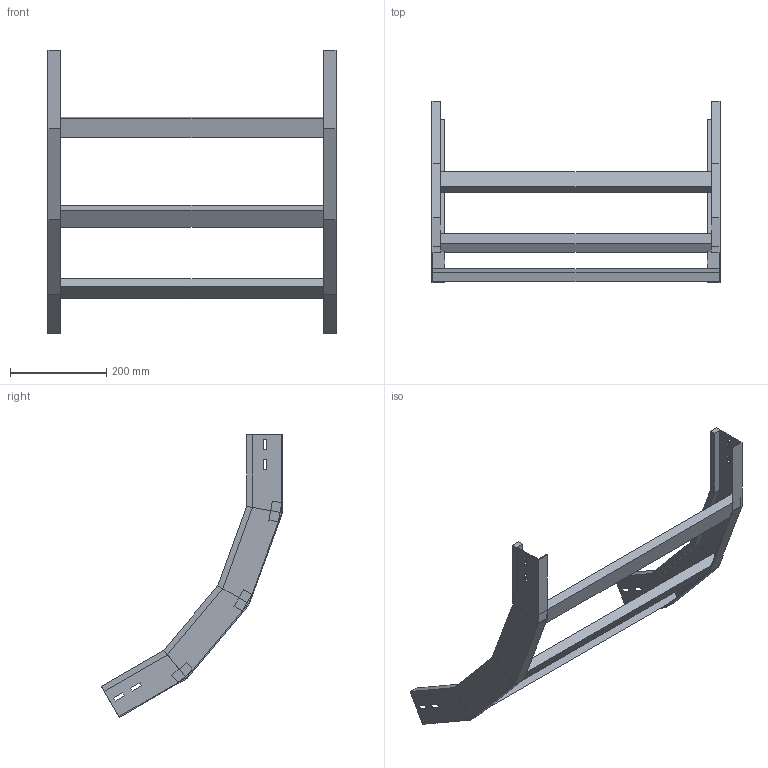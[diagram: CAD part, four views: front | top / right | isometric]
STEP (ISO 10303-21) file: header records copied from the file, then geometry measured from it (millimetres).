
FILE_DESCRIPTION (( 'STEP AP214' ), '1' );
FILE_NAME ('A2X40B5C600XX.step', '2025-03-20T10:17:26', ( '' ), ( '' ), 'SwSTEP 2.0', 'SolidWorks 2023', '' );
FILE_SCHEMA (( 'AUTOMOTIVE_DESIGN' ));
Length unit declared in the file: millimetre
Products named in the file (3): TRAVERSINO_600; A2X40B5C600XX; LONGH.SALITA_60°_H75_R500
Assembly tree (5 placements, depth 2):
  A2X40B5C600XX
    LONGH.SALITA_60°_H75_R500  x2
    TRAVERSINO_600  x3
Bounding box: 600 x 377.79 x 589.4 mm (x, y, z)
Volume: 1978410 mm3; surface area: 548991.6 mm2
Topology: 5 solids, 5 shells, 118 faces, 276 edges, 168 vertices
Faces by surface type: plane 118
Entity records: 1672 total; most frequent: CARTESIAN_POINT 276, ORIENTED_EDGE 264, DIRECTION 260, LINE 132, VECTOR 132, EDGE_CURVE 132, VERTEX_POINT 80, AXIS2_PLACEMENT_3D 64
